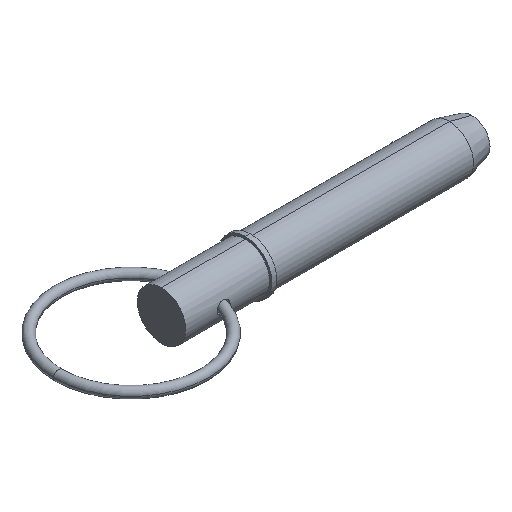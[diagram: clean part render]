
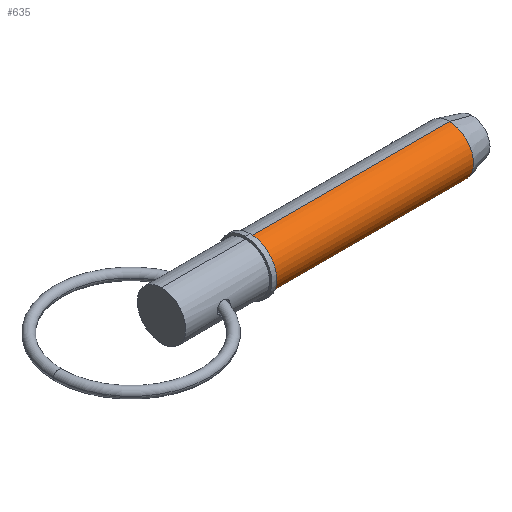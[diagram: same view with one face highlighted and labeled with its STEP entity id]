
A CAD part, isometric view. The second image highlights one B-rep face of the part: STEP entity #635.
In plain terms, the highlighted cylindrical face has radius 9.525 mm (diameter 19.05 mm), a partial arc.
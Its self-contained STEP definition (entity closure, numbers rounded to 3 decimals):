
#81 = CARTESIAN_POINT ( 'NONE',  ( 113.343, 0., 0. ) ) ;
#87 = CARTESIAN_POINT ( 'NONE',  ( 0., 0., 0. ) ) ;
#88 = DIRECTION ( 'NONE',  ( 0., 0., -1. ) ) ;
#110 = DIRECTION ( 'NONE',  ( 1., 0., 0. ) ) ;
#113 = DIRECTION ( 'NONE',  ( 1., 0., 0. ) ) ;
#158 = EDGE_CURVE ( 'NONE', #828, #894, #838, .T. ) ;
#160 = DIRECTION ( 'NONE',  ( 1., 0., 0. ) ) ;
#172 = DIRECTION ( 'NONE',  ( 0., 0., -1. ) ) ;
#179 = LINE ( 'NONE', #887, #813 ) ;
#185 = ORIENTED_EDGE ( 'NONE', *, *, #747, .F. ) ;
#186 = CARTESIAN_POINT ( 'NONE',  ( 34.93, 0., 9.525 ) ) ;
#236 = VERTEX_POINT ( 'NONE', #186 ) ;
#256 = DIRECTION ( 'NONE',  ( 0., 0., -1. ) ) ;
#269 = CYLINDRICAL_SURFACE ( 'NONE', #687, 9.525 ) ;
#425 = AXIS2_PLACEMENT_3D ( 'NONE', #835, #110, #256 ) ;
#447 = AXIS2_PLACEMENT_3D ( 'NONE', #81, #160, #88 ) ;
#475 = CIRCLE ( 'NONE', #447, 9.525 ) ;
#509 = DIRECTION ( 'NONE',  ( 1., 0., 0. ) ) ;
#515 = VECTOR ( 'NONE', #113, 1000. ) ;
#579 = EDGE_LOOP ( 'NONE', ( #185, #643, #822, #1028 ) ) ;
#588 = DIRECTION ( 'NONE',  ( 1., 0., 0. ) ) ;
#621 = VERTEX_POINT ( 'NONE', #776 ) ;
#635 = ADVANCED_FACE ( 'NONE', ( #909 ), #269, .T. ) ;
#643 = ORIENTED_EDGE ( 'NONE', *, *, #662, .T. ) ;
#662 = EDGE_CURVE ( 'NONE', #236, #828, #1043, .T. ) ;
#687 = AXIS2_PLACEMENT_3D ( 'NONE', #87, #588, #172 ) ;
#718 = CARTESIAN_POINT ( 'NONE',  ( 113.343, 0., -9.525 ) ) ;
#747 = EDGE_CURVE ( 'NONE', #236, #621, #179, .T. ) ;
#757 = CARTESIAN_POINT ( 'NONE',  ( 34.93, 0., -9.525 ) ) ;
#760 = CARTESIAN_POINT ( 'NONE',  ( 0., 0., -9.525 ) ) ;
#776 = CARTESIAN_POINT ( 'NONE',  ( 113.343, 0., 9.525 ) ) ;
#813 = VECTOR ( 'NONE', #509, 1000. ) ;
#822 = ORIENTED_EDGE ( 'NONE', *, *, #158, .T. ) ;
#828 = VERTEX_POINT ( 'NONE', #757 ) ;
#835 = CARTESIAN_POINT ( 'NONE',  ( 34.93, 0., 0. ) ) ;
#838 = LINE ( 'NONE', #760, #515 ) ;
#887 = CARTESIAN_POINT ( 'NONE',  ( 0., 0., 9.525 ) ) ;
#894 = VERTEX_POINT ( 'NONE', #718 ) ;
#909 = FACE_OUTER_BOUND ( 'NONE', #579, .T. ) ;
#1028 = ORIENTED_EDGE ( 'NONE', *, *, #1046, .F. ) ;
#1043 = CIRCLE ( 'NONE', #425, 9.525 ) ;
#1046 = EDGE_CURVE ( 'NONE', #621, #894, #475, .T. ) ;
